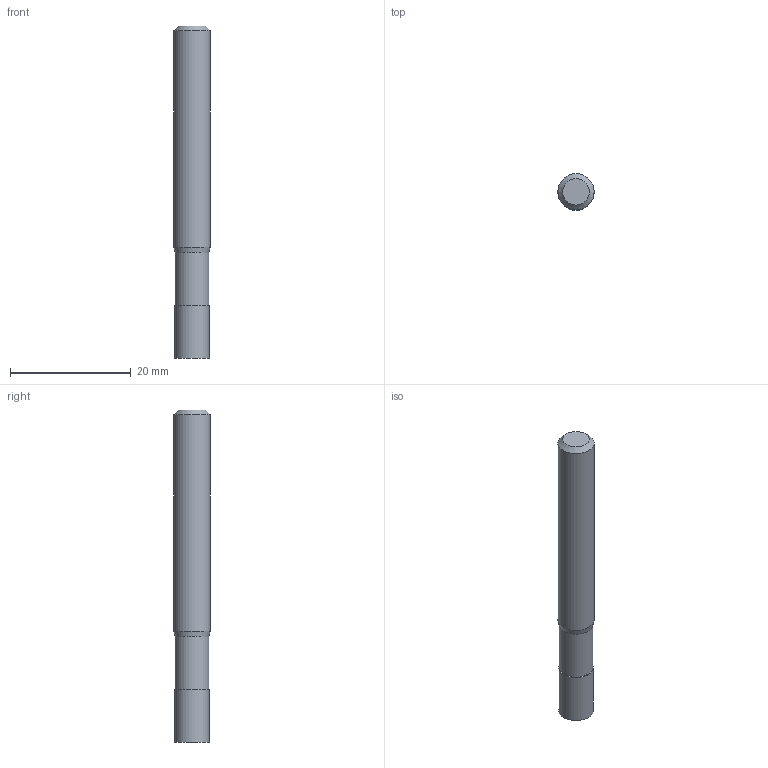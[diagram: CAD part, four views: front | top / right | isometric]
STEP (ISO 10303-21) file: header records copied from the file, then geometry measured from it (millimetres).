
FILE_DESCRIPTION((''),'2;1');
FILE_NAME('C:\Users\nsx150\AppData\Local\Temp\Mastercam 2021\EUJSUNXURU\TEMP.step','2021-04-22T10:28:45',(''),(''),'STEP Write','Mastercam 2021 ... CNC Software, Inc.','');
FILE_SCHEMA(('AUTOMOTIVE_DESIGN'));
Length unit declared in the file: millimetre
Products named in the file (1): None
Bounding box: 6 x 6 x 55 mm (x, y, z)
Volume: 1500 mm3; surface area: 1116.2 mm2
Topology: 2 solids, 2 shells, 9 faces, 12 edges, 7 vertices
Faces by surface type: plane 4, cylinder 3, cone 2
Full cylindrical faces by diameter (mm): 5.6 x1, 5.8 x1, 6 x1
Entity records: 211 total; most frequent: DIRECTION 36, CARTESIAN_POINT 25, AXIS2_PLACEMENT_3D 18, ORIENTED_EDGE 14, EDGE_LOOP 14, STYLED_ITEM 12, ADVANCED_FACE 9, FACE_BOUND 8
